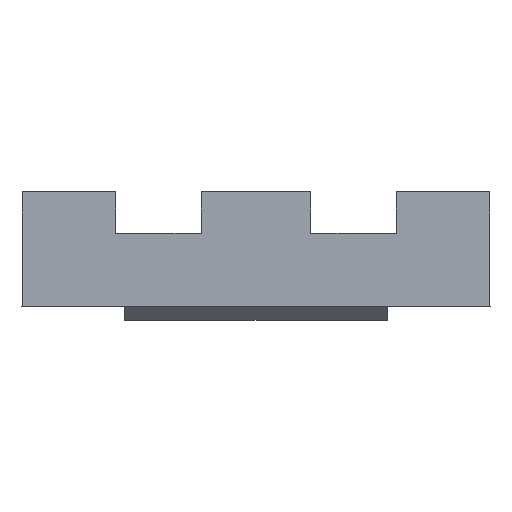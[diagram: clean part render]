
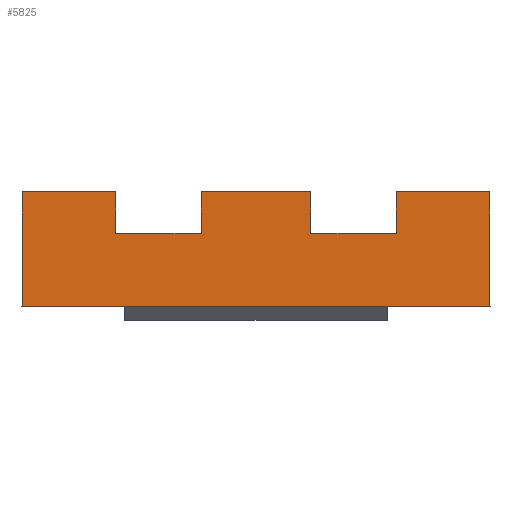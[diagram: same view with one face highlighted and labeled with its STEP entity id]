
A CAD part, front view. The second image highlights one B-rep face of the part: STEP entity #5825.
In plain terms, the highlighted planar face has unit normal (0, -1, 0).
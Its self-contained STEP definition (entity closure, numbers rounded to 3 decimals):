
#202=DIRECTION('',(0.,0.,1.));
#203=VECTOR('',#202,8.6);
#204=CARTESIAN_POINT('',(-28.,0.1,
-8.6));
#205=LINE('',#204,#203);
#206=DIRECTION('',(0.,0.,-1.));
#207=VECTOR('',#206,3.1);
#208=CARTESIAN_POINT('',(-21.,0.1,
0.));
#209=LINE('',#208,#207);
#210=DIRECTION('',(1.,0.,0.));
#211=VECTOR('',#210,6.4);
#212=CARTESIAN_POINT('',(-21.,0.1,
-3.1));
#213=LINE('',#212,#211);
#219=DIRECTION('',(1.,0.,0.));
#220=VECTOR('',#219,27.);
#221=CARTESIAN_POINT('',(-24.,0.1,
-8.6));
#222=LINE('',#221,#220);
#1056=DIRECTION('',(0.,0.,1.));
#1057=VECTOR('',#1056,8.6);
#1058=CARTESIAN_POINT('',(7.,0.1,
-8.6));
#1059=LINE('',#1058,#1057);
#1099=DIRECTION('',(1.,0.,0.));
#1100=VECTOR('',#1099,7.);
#1101=CARTESIAN_POINT('',(0.,0.1,
0.));
#1102=LINE('',#1101,#1100);
#1221=DIRECTION('',(0.,0.,1.));
#1222=VECTOR('',#1221,3.1);
#1223=CARTESIAN_POINT('',(0.,0.1,
-3.1));
#1224=LINE('',#1223,#1222);
#1281=DIRECTION('',(1.,0.,0.));
#1282=VECTOR('',#1281,6.4);
#1283=CARTESIAN_POINT('',(-6.4,0.1,
-3.1));
#1284=LINE('',#1283,#1282);
#1313=DIRECTION('',(0.,0.,-1.));
#1314=VECTOR('',#1313,3.1);
#1315=CARTESIAN_POINT('',(-6.4,0.1,
0.));
#1316=LINE('',#1315,#1314);
#1325=DIRECTION('',(1.,0.,0.));
#1326=VECTOR('',#1325,8.2);
#1327=CARTESIAN_POINT('',(-14.6,0.1,
0.));
#1328=LINE('',#1327,#1326);
#1357=DIRECTION('',(0.,0.,1.));
#1358=VECTOR('',#1357,3.1);
#1359=CARTESIAN_POINT('',(-14.6,0.1,
-3.1));
#1360=LINE('',#1359,#1358);
#3384=DIRECTION('',(1.,0.,0.));
#3385=VECTOR('',#3384,4.);
#3386=CARTESIAN_POINT('',(3.,0.1,
-8.6));
#3387=LINE('',#3386,#3385);
#3573=DIRECTION('',(1.,0.,0.));
#3574=VECTOR('',#3573,7.);
#3575=CARTESIAN_POINT('',(-28.,0.1,0.));
#3576=LINE('',#3575,#3574);
#3661=DIRECTION('',(1.,0.,0.));
#3662=VECTOR('',#3661,4.);
#3663=CARTESIAN_POINT('',(-28.,0.1,
-8.6));
#3664=LINE('',#3663,#3662);
#4071=CARTESIAN_POINT('',(-28.,0.1,0.));
#4072=VERTEX_POINT('',#4071);
#4073=CARTESIAN_POINT('',(-28.,0.1,
-8.6));
#4074=VERTEX_POINT('',#4073);
#4215=CARTESIAN_POINT('',(-14.6,0.1,
-3.1));
#4216=VERTEX_POINT('',#4215);
#4217=CARTESIAN_POINT('',(-21.,0.1,
-3.1));
#4218=VERTEX_POINT('',#4217);
#4287=CARTESIAN_POINT('',(-21.,0.1,
0.));
#4288=VERTEX_POINT('',#4287);
#4289=CARTESIAN_POINT('',(-24.,0.1,
-8.6));
#4290=CARTESIAN_POINT('',(3.,0.1,
-8.6));
#4291=VERTEX_POINT('',#4289);
#4292=VERTEX_POINT('',#4290);
#4293=CARTESIAN_POINT('',(7.,0.1,
-8.6));
#4294=VERTEX_POINT('',#4293);
#4295=CARTESIAN_POINT('',(7.,0.1,
0.));
#4296=VERTEX_POINT('',#4295);
#4297=CARTESIAN_POINT('',(0.,0.1,
0.));
#4298=VERTEX_POINT('',#4297);
#4299=CARTESIAN_POINT('',(0.,0.1,
-3.1));
#4300=VERTEX_POINT('',#4299);
#4301=CARTESIAN_POINT('',(-6.4,0.1,
-3.1));
#4302=VERTEX_POINT('',#4301);
#4303=CARTESIAN_POINT('',(-6.4,0.1,
0.));
#4304=VERTEX_POINT('',#4303);
#4305=CARTESIAN_POINT('',(-14.6,0.1,
0.));
#4306=VERTEX_POINT('',#4305);
#5793=CARTESIAN_POINT('',(-10.5,0.1,-4.3));
#5794=DIRECTION('',(0.,1.,0.));
#5795=DIRECTION('',(0.,0.,1.));
#5796=AXIS2_PLACEMENT_3D('',#5793,#5794,#5795);
#5797=PLANE('',#5796);
#5799=ORIENTED_EDGE('',*,*,#5798,.F.);
#5801=ORIENTED_EDGE('',*,*,#5800,.F.);
#5802=ORIENTED_EDGE('',*,*,#5225,.T.);
#5804=ORIENTED_EDGE('',*,*,#5803,.T.);
#5805=ORIENTED_EDGE('',*,*,#5778,.T.);
#5806=ORIENTED_EDGE('',*,*,#5476,.T.);
#5808=ORIENTED_EDGE('',*,*,#5807,.T.);
#5810=ORIENTED_EDGE('',*,*,#5809,.T.);
#5812=ORIENTED_EDGE('',*,*,#5811,.T.);
#5814=ORIENTED_EDGE('',*,*,#5813,.T.);
#5816=ORIENTED_EDGE('',*,*,#5815,.T.);
#5818=ORIENTED_EDGE('',*,*,#5817,.T.);
#5820=ORIENTED_EDGE('',*,*,#5819,.F.);
#5822=ORIENTED_EDGE('',*,*,#5821,.F.);
#5823=EDGE_LOOP('',(#5799,#5801,#5802,#5804,#5805,#5806,#5808,#5810,#5812,#5814,
#5816,#5818,#5820,#5822));
#5824=FACE_OUTER_BOUND('',#5823,.F.);
#5225=EDGE_CURVE('',#4074,#4072,#205,.T.);
#5476=EDGE_CURVE('',#4218,#4216,#213,.T.);
#5778=EDGE_CURVE('',#4288,#4218,#209,.T.);
#5798=EDGE_CURVE('',#4291,#4292,#222,.T.);
#5800=EDGE_CURVE('',#4074,#4291,#3664,.T.);
#5803=EDGE_CURVE('',#4072,#4288,#3576,.T.);
#5807=EDGE_CURVE('',#4216,#4306,#1360,.T.);
#5809=EDGE_CURVE('',#4306,#4304,#1328,.T.);
#5811=EDGE_CURVE('',#4304,#4302,#1316,.T.);
#5813=EDGE_CURVE('',#4302,#4300,#1284,.T.);
#5815=EDGE_CURVE('',#4300,#4298,#1224,.T.);
#5817=EDGE_CURVE('',#4298,#4296,#1102,.T.);
#5819=EDGE_CURVE('',#4294,#4296,#1059,.T.);
#5821=EDGE_CURVE('',#4292,#4294,#3387,.T.);
#5825=ADVANCED_FACE('',(#5824),#5797,.F.);
